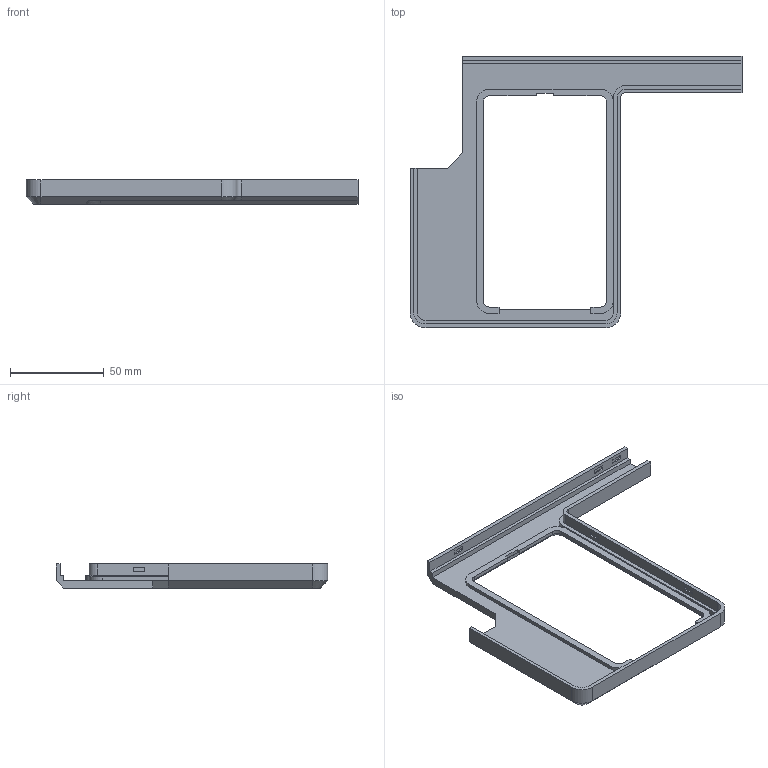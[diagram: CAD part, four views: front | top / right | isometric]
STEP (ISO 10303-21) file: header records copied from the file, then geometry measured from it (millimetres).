
FILE_DESCRIPTION(/* description */ ('STEP AP242','CAx-IF Rec.Pracs.---Representation and Presentation of Product Manufacturing Information (PMI)---4.0---2014-10-13','CAx-IF Rec.Pracs.---3D Tessellated Geometry---0.4---2014-09-14','2;1'),/* implementation_level */ '2;1');
FILE_NAME(/* name */ 'Base Shell - Right Housing Cover',/* time_stamp */ '2025-07-21T16:38:40Z',/* author */ (''),/* organization */ (''),/* preprocessor_version */ 'ST-DEVELOPER v20',/* originating_system */ 'ONSHAPE BY PTC INC, 1.201',/* authorisation */ ' ');
FILE_SCHEMA (('AP242_MANAGED_MODEL_BASED_3D_ENGINEERING_MIM_LF { 1 0 10303 442 1 1 4 }'));
Length unit declared in the file: metre
Products named in the file (1): Right Housing Cover
Bounding box: 177.12 x 144.75 x 12.9 mm (x, y, z)
Volume: 35838.8 mm3; surface area: 29100.9 mm2
Topology: 1 solids, 1 shells, 129 faces, 347 edges, 229 vertices
Faces by surface type: plane 104, cylinder 21, cone 4
Entity records: 4018 total; most frequent: CARTESIAN_POINT 706, ORIENTED_EDGE 694, DIRECTION 654, EDGE_CURVE 347, LINE 300, VECTOR 300, VERTEX_POINT 229, AXIS2_PLACEMENT_3D 177
